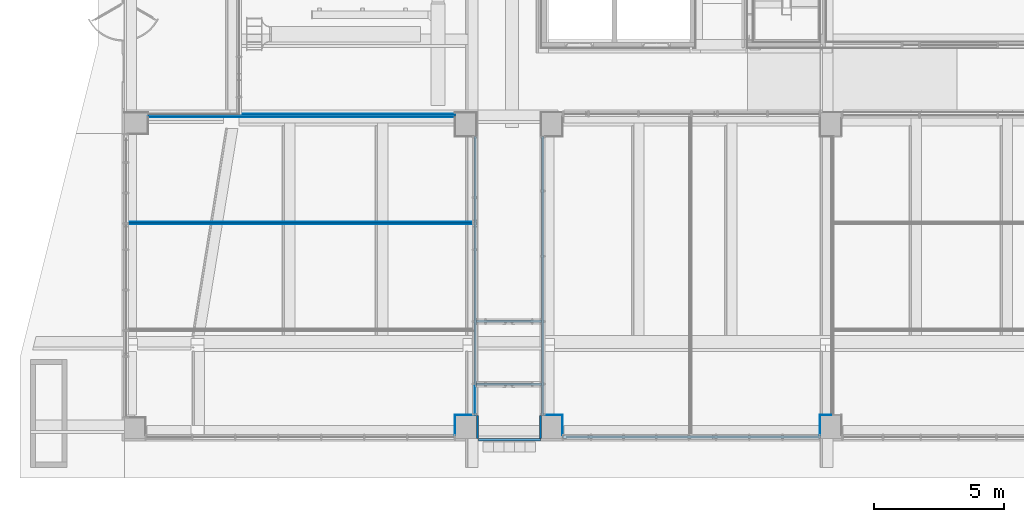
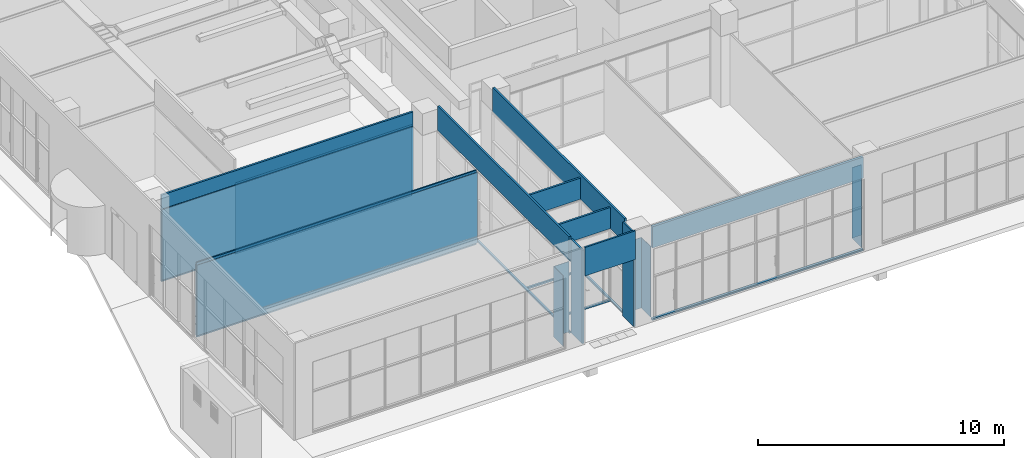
# One storey, part 34 of 100: 22 walls, 10 openings.
"""IFC2X3 building model written with IfcOpenShell, lengths in millimetres."""

from ifc_helpers import new_model, entity, si_unit, converted_unit, derived_unit, direction, frame, frame_2d, origin, place, context, subcontext, project, spatial, polyline, rectangle, extrude, clip, bounded_halfspace, material, layer, layer_set, layer_usage, type_object, element, save


model = new_model("IFC2X3")

# Units and contexts
model_context = context("Model", 3, precision=0.01, world=origin(), true_north=direction((6.123031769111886e-17, 1.0)))
body_context = subcontext(model_context, "Body", "Model", "MODEL_VIEW")
ifc_project = project(units=[si_unit("LENGTHUNIT", "METRE", prefix="MILLI"), si_unit("AREAUNIT", "SQUARE_METRE"), si_unit("VOLUMEUNIT", "CUBIC_METRE"), converted_unit("PLANEANGLEUNIT", "DEGREE", entity("IfcRatioMeasure", 0.017453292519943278), si_unit("PLANEANGLEUNIT", "RADIAN"), dimensions=[0, 0, 0, 0, 0, 0, 0]), si_unit("MASSUNIT", "GRAM", prefix="KILO"), derived_unit("MASSDENSITYUNIT", [(si_unit("MASSUNIT", "GRAM", prefix="KILO"), 1), (si_unit("LENGTHUNIT", "METRE"), -3)]), derived_unit("MOMENTOFINERTIAUNIT", [(si_unit("LENGTHUNIT", "METRE"), 4)]), si_unit("TIMEUNIT", "SECOND"), si_unit("FREQUENCYUNIT", "HERTZ"), si_unit("THERMODYNAMICTEMPERATUREUNIT", "DEGREE_CELSIUS"), derived_unit("THERMALTRANSMITTANCEUNIT", [(si_unit("MASSUNIT", "GRAM", prefix="KILO"), 1), (si_unit("THERMODYNAMICTEMPERATUREUNIT", "KELVIN"), -1), (si_unit("TIMEUNIT", "SECOND"), -3)]), derived_unit("VOLUMETRICFLOWRATEUNIT", [(si_unit("LENGTHUNIT", "METRE"), 3), (si_unit("TIMEUNIT", "SECOND"), -1)]), derived_unit("MASSFLOWRATEUNIT", [(si_unit("MASSUNIT", "GRAM", prefix="KILO"), 1), (si_unit("TIMEUNIT", "SECOND"), -1)]), derived_unit("ROTATIONALFREQUENCYUNIT", [(si_unit("TIMEUNIT", "SECOND"), -1)]), si_unit("ELECTRICCURRENTUNIT", "AMPERE"), si_unit("ELECTRICVOLTAGEUNIT", "VOLT"), si_unit("POWERUNIT", "WATT"), si_unit("FORCEUNIT", "NEWTON", prefix="KILO"), si_unit("ILLUMINANCEUNIT", "LUX"), si_unit("LUMINOUSFLUXUNIT", "LUMEN"), si_unit("LUMINOUSINTENSITYUNIT", "CANDELA"), derived_unit("USERDEFINED", [(si_unit("MASSUNIT", "GRAM", prefix="KILO"), -1), (si_unit("LENGTHUNIT", "METRE"), -2), (si_unit("TIMEUNIT", "SECOND"), 3), (si_unit("LUMINOUSFLUXUNIT", "LUMEN"), 1)]), derived_unit("SOUNDPOWERUNIT", [(si_unit("MASSUNIT", "GRAM", prefix="KILO"), 1), (si_unit("LENGTHUNIT", "METRE"), 2), (si_unit("TIMEUNIT", "SECOND"), -3)]), derived_unit("SOUNDPRESSUREUNIT", [(si_unit("MASSUNIT", "GRAM", prefix="KILO"), 1), (si_unit("LENGTHUNIT", "METRE"), -1), (si_unit("TIMEUNIT", "SECOND"), -2)]), derived_unit("LINEARVELOCITYUNIT", [(si_unit("LENGTHUNIT", "METRE"), 1), (si_unit("TIMEUNIT", "SECOND"), -1)]), si_unit("PRESSUREUNIT", "PASCAL"), derived_unit("USERDEFINED", [(si_unit("LENGTHUNIT", "METRE"), -2), (si_unit("MASSUNIT", "GRAM", prefix="KILO"), 1), (si_unit("TIMEUNIT", "SECOND"), -2)]), derived_unit("LINEARFORCEUNIT", [(si_unit("MASSUNIT", "GRAM", prefix="KILO"), 1), (si_unit("LENGTHUNIT", "METRE"), 1), (si_unit("TIMEUNIT", "SECOND"), -2), (si_unit("LENGTHUNIT", "METRE"), -1)]), derived_unit("PLANARFORCEUNIT", [(si_unit("MASSUNIT", "GRAM", prefix="KILO"), 1), (si_unit("LENGTHUNIT", "METRE"), 1), (si_unit("TIMEUNIT", "SECOND"), -2), (si_unit("LENGTHUNIT", "METRE"), -2)])], contexts=[model_context])

# Site, building, storey
site_placement = place(None, frame((-14167.972527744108, -657.2125860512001, 0.0)))
site = spatial("IfcSite", under=ifc_project, at=site_placement, Name="Default", CompositionType="ELEMENT")
building_placement = place(site_placement, origin())
building = spatial("IfcBuilding", under=site, at=building_placement, Name="Sample Building", CompositionType="ELEMENT")
storey_placement = place(building_placement, origin())
storey = spatial("IfcBuildingStorey", under=building, at=storey_placement, Name="지상 1층", CompositionType="ELEMENT", Elevation=0.0)

# Walls
ifc_material_1 = material(Name="KBIMS-화강석 잔다듬")
ifc_layer_1 = layer(ifc_material_1, 80.0)
ifc_layer_set_1 = layer_set([ifc_layer_1], Name="기본 벽:WA313-화강석잔다듬 벽 (30, 건식50) 80mm")
ifc_layer_usage_1 = layer_usage(ifc_layer_set_1, "AXIS2", "NEGATIVE", 40.0)
wall_type_1 = type_object("IfcWallType", Name="기본 벽:WA313-화강석잔다듬 벽 (30, 건식50) 80mm", PredefinedType="STANDARD", material=ifc_layer_set_1)
wall_1_placement = place(storey_placement, frame((27607.955141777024, 1457.2118860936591, 0.0), z_axis=(0.0, 0.0, 1.0), x_axis=(0.0, -1.0, 0.0)))
element("IfcWallStandardCase", 1, at=wall_1_placement, inside=storey, type_object=wall_type_1, material=ifc_layer_usage_1, Name="기본 벽:WA313-화강석잔다듬 벽 (30, 건식50) 80mm", ObjectType="기본 벽:WA313-화강석잔다듬 벽 (30, 건식50) 80mm", context=body_context, shape_type="Clipping", body=[
    clip(extrude(rectangle(XDim=899.9996909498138, YDim=79.99999999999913, at=frame_2d((449.9998454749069, 0.0), x_axis=(-1.0, 0.0))), origin(), (0.0, 0.0, 1.0), 4650.000000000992), bounded_halfspace(frame((0.0, -40.0, 4650.0), z_axis=(0.0, 0.0, -1.0), x_axis=(0.0, 1.0, 0.0)), True, frame((0.0, -40.0, 4650.0), z_axis=(0.0, 0.0, -1.0), x_axis=(0.0, 1.0, 0.0)), polyline([(0.0, 0.0), (24384.0, 0.0), (24384.0, 274319.9058015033), (0.0, 274319.9058015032), (0.0, 0.0)]))),
])
ifc_layer_usage_2 = layer_usage(ifc_layer_set_1, "AXIS2", "NEGATIVE", 40.0)
wall_2_placement = place(storey_placement, frame((14967.97245452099, 12957.268334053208, 80.0)))
element("IfcWallStandardCase", 2, at=wall_2_placement, inside=storey, type_object=wall_type_1, material=ifc_layer_usage_2, Name="기본 벽:WA313-화강석잔다듬 벽 (30, 건식50) 80mm", ObjectType="기본 벽:WA313-화강석잔다듬 벽 (30, 건식50) 80mm", context=body_context, shape_type="SweptSolid", body=[
    extrude(rectangle(XDim=11792.000036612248, YDim=79.99999999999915, at=frame_2d((5896.000018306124, -4.121147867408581e-13), x_axis=(-1.0, 0.0))), origin(), (0.0, 0.0, 1.0), 3520.000000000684),
])
ifc_layer_usage_3 = layer_usage(ifc_layer_set_1, "AXIS2", "POSITIVE", -40.0)
wall_3_placement = place(storey_placement, frame((27647.955141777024, 517.2126170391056, 3380.0)))
element("IfcWallStandardCase", 3, at=wall_3_placement, inside=storey, type_object=wall_type_1, material=ifc_layer_usage_3, Name="기본 벽:WA313-화강석잔다듬 벽 (30, 건식50) 80mm", ObjectType="기본 벽:WA313-화강석잔다듬 벽 (30, 건식50) 80mm", context=body_context, shape_type="SweptSolid", body=[
    extrude(rectangle(XDim=80.00000000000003, YDim=2380.0173219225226, at=frame_2d((1.2505552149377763e-12, 383.3362203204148), x_axis=(1.0, 0.0))), frame((1573.3448812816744, 0.0, 0.0), z_axis=(0.0, 0.0, 1.0), x_axis=(0.0, 1.0, 0.0)), (0.0, 0.0, 1.0), 1419.9999999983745),
])
ifc_layer_usage_4 = layer_usage(ifc_layer_set_1, "AXIS2", "POSITIVE", -40.0)
wall_4_placement = place(storey_placement, frame((30027.972463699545, 1457.2123079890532, 0.0), z_axis=(0.0, 0.0, 1.0), x_axis=(0.0, -1.0, 0.0)))
element("IfcWallStandardCase", 4, at=wall_4_placement, inside=storey, type_object=wall_type_1, material=ifc_layer_usage_4, Name="기본 벽:WA313-화강석잔다듬 벽 (30, 건식50) 80mm", ObjectType="기본 벽:WA313-화강석잔다듬 벽 (30, 건식50) 80mm", context=body_context, shape_type="Clipping", body=[
    clip(extrude(rectangle(XDim=899.999690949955, YDim=79.99999999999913, at=frame_2d((449.9998454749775, 0.0), x_axis=(-1.0, 0.0))), origin(), (0.0, 0.0, 1.0), 4650.000000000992), bounded_halfspace(frame((0.0, -40.0, 4650.0), z_axis=(0.0, 0.0, -1.0), x_axis=(0.0, 1.0, 0.0)), True, frame((0.0, -40.0, 4650.0), z_axis=(0.0, 0.0, -1.0), x_axis=(0.0, 1.0, 0.0)), polyline([(0.0, 0.0), (24384.0, 0.0), (24384.0, 274319.90580154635), (0.0, 274319.90580154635), (0.0, 0.0)]))),
])
ifc_material_2 = material(Name="KBIMS-DRY WALL")
ifc_layer_2 = layer(ifc_material_2, 12.5)
ifc_material_3 = material(Name="KBIMS-경량철골벽틀")
ifc_layer_3 = layer(ifc_material_3, 50.0)
ifc_layer_set_2 = layer_set([ifc_layer_2, ifc_layer_3], Name="기본 벽:WA731-DRY WALL(C50, GS12.5mm) (1겹한면, GW50mm) 62.5mm")
ifc_layer_usage_5 = layer_usage(ifc_layer_set_2, "AXIS2", "NEGATIVE", 31.250000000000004)
wall_type_2 = type_object("IfcWallType", Name="기본 벽:WA731-DRY WALL(C50, GS12.5mm) (1겹한면, GW50mm) 62.5mm", PredefinedType="STANDARD", material=ifc_layer_set_2)
wall_5_placement = place(storey_placement, frame((14229.839654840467, 8825.92762174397, 0.0)))
element("IfcWallStandardCase", 5, at=wall_5_placement, inside=storey, type_object=wall_type_2, material=ifc_layer_usage_5, Name="기본 벽:WA731-DRY WALL(C50, GS12.5mm) (1겹한면, GW50mm) 62.5mm", ObjectType="기본 벽:WA731-DRY WALL(C50, GS12.5mm) (1겹한면, GW50mm) 62.5mm", context=body_context, shape_type="SweptSolid", body=[
    extrude(rectangle(XDim=13138.14065970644, YDim=62.49999999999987, at=frame_2d((6569.07032985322, 8.881784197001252e-13), x_axis=(-1.0, 0.0))), origin(), (0.0, 0.0, 1.0), 3700.000000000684),
])

# Wall, opening
ifc_material_4 = material(Name="KBIMS-시멘트 벽돌")
ifc_layer_4 = layer(ifc_material_4, 90.0)
ifc_layer_set_3 = layer_set([ifc_layer_4], Name="기본 벽:WA211-시멘트벽돌(일반) 벽 (0.5B) 90mm")
ifc_layer_usage_6 = layer_usage(ifc_layer_set_3, "AXIS2", "NEGATIVE", 45.0)
wall_type_3 = type_object("IfcWallType", Name="기본 벽:WA211-시멘트벽돌(일반) 벽 (0.5B) 90mm", PredefinedType="STANDARD", material=ifc_layer_set_3)
wall_6_placement = place(storey_placement, frame((14967.97245452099, 12957.212586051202, 0.0)))
wall_6 = element("IfcWallStandardCase", 6, at=wall_6_placement, inside=storey, type_object=wall_type_3, material=ifc_layer_usage_6, Name="기본 벽:WA211-시멘트벽돌(일반) 벽 (0.5B) 90mm", ObjectType="기본 벽:WA211-시멘트벽돌(일반) 벽 (0.5B) 90mm", context=body_context, shape_type="SweptSolid", body=[
    extrude(rectangle(XDim=11799.982687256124, YDim=89.99999999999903, at=frame_2d((5899.991343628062, 1.0835776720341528e-12), x_axis=(-1.0, 0.0))), origin(), (0.0, 0.0, 1.0), 4300.000000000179),
])
opening_1_placement = place(wall_6_placement, origin())
element("IfcOpeningElement", 7, at=opening_1_placement, cuts=wall_6, Name="기본 벽:WA211-시멘트벽돌(일반) 벽 (0.5B) 90mm", ObjectType="Opening", context=body_context, shape_type="SweptSolid", body=[
    extrude(rectangle(XDim=3520.000000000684, YDim=11792.000036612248, at=frame_2d((-1.1368683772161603e-13, -1.3642420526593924e-12), x_axis=(1.0, 0.0))), frame((5896.000018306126, -197.39999999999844, 1840.0), z_axis=(0.0, 1.0, 0.0), x_axis=(0.0, 0.0, 1.0)), (0.0, 0.0, 1.0), 394.79999999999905),
])

# Wall, openings
ifc_layer_usage_7 = layer_usage(ifc_layer_set_3, "AXIS2", "NEGATIVE", 45.0)
wall_7_placement = place(storey_placement, frame((27522.9551417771, 1457.1944693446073, 0.0), z_axis=(0.0, 0.0, 1.0), x_axis=(0.0, 1.0, 0.0)))
wall_7 = element("IfcWallStandardCase", 8, at=wall_7_placement, inside=storey, type_object=wall_type_3, material=ifc_layer_usage_7, Name="기본 벽:WA211-시멘트벽돌(일반) 벽 (0.5B) 90mm", ObjectType="기본 벽:WA211-시멘트벽돌(일반) 벽 (0.5B) 90mm", context=body_context, shape_type="SweptSolid", body=[
    extrude(rectangle(XDim=10700.018147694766, YDim=90.0000000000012, at=frame_2d((5350.009073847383, -2.1458390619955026e-12), x_axis=(-1.0, 0.0))), origin(), (0.0, 0.0, 1.0), 4799.999999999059),
])
opening_2_placement = place(storey_placement, frame((27522.9551417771, 1457.1944693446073, 0.0), z_axis=(0.0, 0.0, 1.0), x_axis=(0.0, 1.0, 0.0)))
element("IfcOpeningElement", 9, at=opening_2_placement, cuts=wall_7, Name="기본 벽:WA211-시멘트벽돌(일반) 벽 (0.5B) 90mm:1", ObjectType="Opening", context=body_context, shape_type="SweptSolid", body=[
    extrude(rectangle(XDim=30.000000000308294, YDim=1142.983155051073, at=frame_2d((0.0, 0.0), x_axis=(0.0, 1.0))), frame((571.4915775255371, 9.97482723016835, 3615.0), z_axis=(0.0, -1.0, 0.0), x_axis=(-1.0, 0.0, 0.0)), (0.0, 0.0, 1.0), 18.000000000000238),
])
opening_3_placement = place(wall_7_placement, origin())
element("IfcOpeningElement", 10, at=opening_3_placement, cuts=wall_7, Name="기본 벽:WA211-시멘트벽돌(일반) 벽 (0.5B) 90mm", ObjectType="Opening", context=body_context, shape_type="SweptSolid", body=[
    extrude(rectangle(XDim=3520.000000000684, YDim=10700.0, at=frame_2d((-1.1368683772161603e-13, 9.094947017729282e-13), x_axis=(1.0, 0.0))), frame((5350.01814769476, -197.4000000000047, 1840.0), z_axis=(0.0, 1.0, 0.0), x_axis=(0.0, 0.0, 1.0)), (0.0, 0.0, 1.0), 394.8000000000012),
])

# Wall, opening
ifc_layer_usage_8 = layer_usage(ifc_layer_set_3, "AXIS2", "POSITIVE", -45.0)
wall_8_placement = place(storey_placement, frame((30112.97249113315, 1457.212307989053, 0.0), z_axis=(0.0, 0.0, 1.0), x_axis=(0.0, 1.0, 0.0)))
wall_8 = element("IfcWallStandardCase", 11, at=wall_8_placement, inside=storey, type_object=wall_type_3, material=ifc_layer_usage_8, Name="기본 벽:WA211-시멘트벽돌(일반) 벽 (0.5B) 90mm", ObjectType="기본 벽:WA211-시멘트벽돌(일반) 벽 (0.5B) 90mm", context=body_context, shape_type="SweptSolid", body=[
    extrude(rectangle(XDim=10700.00030905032, YDim=90.0000000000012, at=frame_2d((5350.00015452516, -2.7675639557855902e-12), x_axis=(-1.0, 0.0))), origin(), (0.0, 0.0, 1.0), 4799.99999999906),
])
opening_4_placement = place(wall_8_placement, origin())
element("IfcOpeningElement", 12, at=opening_4_placement, cuts=wall_8, Name="기본 벽:WA211-시멘트벽돌(일반) 벽 (0.5B) 90mm", ObjectType="Opening", context=body_context, shape_type="SweptSolid", body=[
    extrude(rectangle(XDim=3520.000000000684, YDim=10700.000309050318, at=frame_2d((0.0, 0.0), x_axis=(0.0, 1.0))), frame((5350.00015452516, -197.40000000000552, 1840.0), z_axis=(0.0, 1.0, 0.0), x_axis=(-1.0, 0.0, 0.0)), (0.0, 0.0, 1.0), 394.8000000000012),
])

ifc_layer_usage_9 = layer_usage(ifc_layer_set_3, "AXIS2", "NEGATIVE", 45.0)
wall_9_placement = place(storey_placement, frame((27567.955141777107, 5057.1776243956, 0.0)))
wall_9 = element("IfcWallStandardCase", 13, at=wall_9_placement, inside=storey, type_object=wall_type_3, material=ifc_layer_usage_9, Name="기본 벽:WA211-시멘트벽돌(일반) 벽 (0.5B) 90mm", ObjectType="기본 벽:WA211-시멘트벽돌(일반) 벽 (0.5B) 90mm", context=body_context, shape_type="Clipping", body=[
    clip(extrude(rectangle(XDim=2500.01734935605, YDim=90.0000000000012, at=frame_2d((1250.008674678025, -8.277822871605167e-13), x_axis=(-1.0, 0.0))), origin(), (0.0, 0.0, 1.0), 4650.000000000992), bounded_halfspace(frame((0.0, -45.0, 4650.0), z_axis=(0.0, 0.0, -1.0), x_axis=(1.0, 0.0, 0.0)), True, frame((0.0, -45.0, 4650.0), z_axis=(0.0, 0.0, -1.0), x_axis=(1.0, 0.0, 0.0)), polyline([(0.0, 0.0), (0.0, -27432.0), (762005.2880837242, -27432.0), (762005.2880837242, 2.4667713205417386e-09), (0.0, 0.0)]))),
])
opening_5_placement = place(wall_9_placement, origin())
element("IfcOpeningElement", 14, at=opening_5_placement, cuts=wall_9, Name="기본 벽:WA211-시멘트벽돌(일반) 벽 (0.5B) 90mm", ObjectType="Opening", context=body_context, shape_type="SweptSolid", body=[
    extrude(rectangle(XDim=3520.000000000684, YDim=2500.0173493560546, at=frame_2d((0.0, 0.0), x_axis=(0.0, 1.0))), frame((1250.0086746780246, -197.4000000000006, 1840.0), z_axis=(0.0, 1.0, 0.0), x_axis=(-1.0, 0.0, 0.0)), (0.0, 0.0, 1.0), 394.79999999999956),
])

ifc_layer_usage_10 = layer_usage(ifc_layer_set_3, "AXIS2", "NEGATIVE", 45.0)
wall_10_placement = place(storey_placement, frame((27567.955141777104, 2645.177624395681, 0.0)))
wall_10 = element("IfcWallStandardCase", 15, at=wall_10_placement, inside=storey, type_object=wall_type_3, material=ifc_layer_usage_10, Name="기본 벽:WA211-시멘트벽돌(일반) 벽 (0.5B) 90mm", ObjectType="기본 벽:WA211-시멘트벽돌(일반) 벽 (0.5B) 90mm", context=body_context, shape_type="Clipping", body=[
    clip(extrude(rectangle(XDim=2500.01734935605, YDim=90.00000000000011, at=frame_2d((1250.008674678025, -1.7763568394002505e-14), x_axis=(-1.0, 0.0))), origin(), (0.0, 0.0, 1.0), 4650.000000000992), bounded_halfspace(frame((0.0, -45.0, 4650.0), z_axis=(0.0, 0.0, -1.0), x_axis=(1.0, 0.0, 0.0)), True, frame((0.0, -45.0, 4650.0), z_axis=(0.0, 0.0, -1.0), x_axis=(1.0, 0.0, 0.0)), polyline([(0.0, 0.0), (0.0, -27432.0), (762005.2880837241, -27432.0), (762005.2880837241, 2.4667713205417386e-09), (0.0, 0.0)]))),
])
opening_6_placement = place(wall_10_placement, origin())
element("IfcOpeningElement", 16, at=opening_6_placement, cuts=wall_10, Name="기본 벽:WA211-시멘트벽돌(일반) 벽 (0.5B) 90mm", ObjectType="Opening", context=body_context, shape_type="SweptSolid", body=[
    extrude(rectangle(XDim=3520.000000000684, YDim=2545.017349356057, at=frame_2d((-2.1600499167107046e-12, 0.0), x_axis=(0.0, 1.0))), frame((1227.5086746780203, -197.4000000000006, 1840.0), z_axis=(0.0, 1.0, 0.0), x_axis=(-1.0, 0.0, 0.0)), (0.0, 0.0, 1.0), 394.8000000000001),
])

# Wall, openings
ifc_material_5 = material(Name="KBIMS-콘크리트")
ifc_layer_5 = layer(ifc_material_5, 125.00000000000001)
ifc_layer_set_4 = layer_set([ifc_layer_5], Name="기본 벽:WA111-철근콘크리트구조 벽 125mm_W3")
ifc_layer_usage_11 = layer_usage(ifc_layer_set_4, "AXIS2", "NEGATIVE", 62.50000000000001)
wall_type_4 = type_object("IfcWallType", Name="기본 벽:WA111-철근콘크리트구조 벽 125mm_W3", PredefinedType="STANDARD", material=ifc_layer_set_4)
wall_11_placement = place(storey_placement, frame((30867.972491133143, 619.7122951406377, 0.0)))
wall_11 = element("IfcWallStandardCase", 17, at=wall_11_placement, inside=storey, type_object=wall_type_4, material=ifc_layer_usage_11, Name="기본 벽:WA111-철근콘크리트구조 벽 125mm_W3", ObjectType="기본 벽:WA111-철근콘크리트구조 벽 125mm_W3", context=body_context, shape_type="Clipping", body=[
    clip(extrude(rectangle(XDim=9900.000000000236, YDim=125.00000000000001, at=frame_2d((4950.000000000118, 0.0), x_axis=(-1.0, 0.0))), origin(), (0.0, 0.0, 1.0), 4650.000000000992), bounded_halfspace(frame((0.0, -62.50000000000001, 4650.0), z_axis=(0.0, 0.0, -1.0), x_axis=(0.0, -1.0, 0.0)), True, frame((0.0, -62.50000000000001, 4650.0), z_axis=(0.0, 0.0, -1.0), x_axis=(0.0, -1.0, 0.0)), polyline([(0.0, 0.0), (-38100.0, 0.0), (-38100.0, -3017520.0), (1.7780678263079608e-08, -3017520.0), (0.0, 0.0)]))),
])
opening_7_placement = place(wall_11_placement, origin())
element("IfcOpeningElement", 18, at=opening_7_placement, cuts=wall_11, Name="기본 벽:WA111-철근콘크리트구조 벽 125mm_W3", ObjectType="Opening", context=body_context, shape_type="SweptSolid", body=[
    extrude(rectangle(XDim=3520.000000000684, YDim=9900.000000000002, at=frame_2d((-1.1368683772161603e-13, 0.0), x_axis=(1.0, 0.0))), frame((4950.0, -214.9, 1840.0), z_axis=(0.0, 1.0, 0.0), x_axis=(0.0, 0.0, 1.0)), (0.0, 0.0, 1.0), 429.8),
])
opening_8_placement = place(wall_11_placement, origin())
element("IfcOpeningElement", 19, at=opening_8_placement, cuts=wall_11, Name="기본 벽:WA111-철근콘크리트구조 벽 125mm_W3", ObjectType="Opening", context=body_context, shape_type="SweptSolid", body=[
    extrude(rectangle(XDim=3520.000000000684, YDim=11900.000036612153, at=frame_2d((-1.1368683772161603e-13, -9.094947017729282e-13), x_axis=(1.0, 0.0))), frame((-10050.0, -214.9000000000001, 1840.0), z_axis=(0.0, 1.0, 0.0), x_axis=(0.0, 0.0, 1.0)), (0.0, 0.0, 1.0), 429.8),
])
opening_9_placement = place(wall_11_placement, origin())
element("IfcOpeningElement", 20, at=opening_9_placement, cuts=wall_11, Name="기본 벽:WA111-철근콘크리트구조 벽 125mm_W3", ObjectType="Opening", context=body_context, shape_type="SweptSolid", body=[
    extrude(rectangle(XDim=3520.000000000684, YDim=9081.999994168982, at=frame_2d((-1.1368683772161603e-13, 4.092726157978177e-12), x_axis=(1.0, 0.0))), frame((15259.0, -214.9, 1840.0), z_axis=(0.0, 1.0, 0.0), x_axis=(0.0, 0.0, 1.0)), (0.0, 0.0, 1.0), 429.8),
])

# Walls
ifc_material_6 = material(Name="WA611-수성페인트 (내부) 벽 (3회)")
ifc_layer_6 = layer(ifc_material_6, 1.0)
ifc_material_7 = material(Name="WA551-시멘트모르타르 (내부) 벽 18mm")
ifc_layer_7 = layer(ifc_material_7, 16.0)
ifc_material_8 = material(Name="WA555-콘크리트면정리 벽 (내부)")
ifc_layer_8 = layer(ifc_material_8, 1.0)
ifc_layer_set_5 = layer_set([ifc_layer_6, ifc_layer_7, ifc_layer_8], Name="기본 벽:A1-32-06A-콘크리트면정리, 시멘트모르타르(미장용), 수성페인트(내부) (18mm)")
ifc_layer_usage_12 = layer_usage(ifc_layer_set_5, "AXIS2", "POSITIVE", -9.000000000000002)
wall_type_5 = type_object("IfcWallType", Name="기본 벽:A1-32-06A-콘크리트면정리, 시멘트모르타르(미장용), 수성페인트(내부) (18mm)", PredefinedType="STANDARD", material=ifc_layer_set_5)
wall_12_placement = place(storey_placement, frame((26767.955141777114, 13011.212586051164, 80.0), z_axis=(0.0, 0.0, 1.0), x_axis=(-1.0, 0.0, 0.0)))
element("IfcWallStandardCase", 21, at=wall_12_placement, inside=storey, type_object=wall_type_5, material=ifc_layer_usage_12, Name="기본 벽:A1-32-06A-콘크리트면정리, 시멘트모르타르(미장용), 수성페인트(내부) (18mm)", ObjectType="기본 벽:A1-32-06A-콘크리트면정리, 시멘트모르타르(미장용), 수성페인트(내부) (18mm)", context=body_context, shape_type="SweptSolid", body=[
    extrude(rectangle(XDim=8299.99134362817, YDim=18.00000000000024, at=frame_2d((4149.995671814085, -5.293543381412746e-13), x_axis=(-1.0, 0.0))), origin(), (0.0, 0.0, 1.0), 3550.0000000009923),
])
ifc_layer_usage_13 = layer_usage(ifc_layer_set_5, "AXIS2", "POSITIVE", -9.000000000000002)
wall_13_placement = place(storey_placement, frame((14229.839654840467, 8786.677621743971, 80.0)))
element("IfcWallStandardCase", 22, at=wall_13_placement, inside=storey, type_object=wall_type_5, material=ifc_layer_usage_13, Name="기본 벽:A1-32-06A-콘크리트면정리, 시멘트모르타르(미장용), 수성페인트(내부) (18mm)", ObjectType="기본 벽:A1-32-06A-콘크리트면정리, 시멘트모르타르(미장용), 수성페인트(내부) (18mm)", context=body_context, shape_type="SweptSolid", body=[
    extrude(rectangle(XDim=13175.14065970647, YDim=18.000000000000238, at=frame_2d((6587.570329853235, -1.8030021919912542e-13), x_axis=(-1.0, 0.0))), origin(), (0.0, 0.0, 1.0), 3500.0000000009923),
])
ifc_layer_usage_14 = layer_usage(ifc_layer_set_5, "AXIS2", "POSITIVE", -9.000000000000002)
wall_14_placement = place(storey_placement, frame((27477.9551417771, 1466.1944693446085, 80.0), z_axis=(0.0, 0.0, 1.0), x_axis=(-1.0, 0.0, 0.0)))
element("IfcWallStandardCase", 23, at=wall_14_placement, inside=storey, type_object=wall_type_5, material=ifc_layer_usage_14, Name="기본 벽:A1-32-06A-콘크리트면정리, 시멘트모르타르(미장용), 수성페인트(내부) (18mm)", ObjectType="기본 벽:A1-32-06A-콘크리트면정리, 시멘트모르타르(미장용), 수성페인트(내부) (18mm)", context=body_context, shape_type="SweptSolid", body=[
    extrude(rectangle(XDim=727.9826506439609, YDim=17.999999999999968, at=frame_2d((363.99132532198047, 1.7674750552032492e-13), x_axis=(-1.0, 0.0))), origin(), (0.0, 0.0, 1.0), 3500.0000000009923),
])
ifc_layer_usage_15 = layer_usage(ifc_layer_set_5, "AXIS2", "POSITIVE", -9.000000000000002)
wall_15_placement = place(storey_placement, frame((26758.972491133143, 1457.1944693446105, 80.0), z_axis=(0.0, 0.0, 1.0), x_axis=(0.0, -1.0, 0.0)))
element("IfcWallStandardCase", 24, at=wall_15_placement, inside=storey, type_object=wall_type_5, material=ifc_layer_usage_15, Name="기본 벽:A1-32-06A-콘크리트면정리, 시멘트모르타르(미장용), 수성페인트(내부) (18mm)", ObjectType="기본 벽:A1-32-06A-콘크리트면정리, 시멘트모르타르(미장용), 수성페인트(내부) (18mm)", context=body_context, shape_type="SweptSolid", body=[
    extrude(rectangle(XDim=774.9821742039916, YDim=18.00000000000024, at=frame_2d((387.4910871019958, -2.1662671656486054e-12), x_axis=(-1.0, 0.0))), origin(), (0.0, 0.0, 1.0), 3500.0000000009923),
])
ifc_layer_usage_16 = layer_usage(ifc_layer_set_5, "AXIS2", "POSITIVE", -9.000000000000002)
wall_16_placement = place(storey_placement, frame((30876.972463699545, 700.1948783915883, 80.0), z_axis=(0.0, 0.0, 1.0), x_axis=(0.0, 1.0, 0.0)))
element("IfcWallStandardCase", 25, at=wall_16_placement, inside=storey, type_object=wall_type_5, material=ifc_layer_usage_16, Name="기본 벽:A1-32-06A-콘크리트면정리, 시멘트모르타르(미장용), 수성페인트(내부) (18mm)", ObjectType="기본 벽:A1-32-06A-콘크리트면정리, 시멘트모르타르(미장용), 수성페인트(내부) (18mm)", context=body_context, shape_type="SweptSolid", body=[
    extrude(rectangle(XDim=775.0174295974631, YDim=18.00000000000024, at=frame_2d((387.50871479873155, -2.1662671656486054e-12), x_axis=(-1.0, 0.0))), origin(), (0.0, 0.0, 1.0), 3500.0000000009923),
])
ifc_layer_usage_17 = layer_usage(ifc_layer_set_5, "AXIS2", "POSITIVE", -9.000000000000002)
wall_17_placement = place(storey_placement, frame((30867.972463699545, 1466.2123079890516, 80.0), z_axis=(0.0, 0.0, 1.0), x_axis=(-1.0, 0.0, 0.0)))
element("IfcWallStandardCase", 26, at=wall_17_placement, inside=storey, type_object=wall_type_5, material=ifc_layer_usage_17, Name="기본 벽:A1-32-06A-콘크리트면정리, 시멘트모르타르(미장용), 수성페인트(내부) (18mm)", ObjectType="기본 벽:A1-32-06A-콘크리트면정리, 시멘트모르타르(미장용), 수성페인트(내부) (18mm)", context=body_context, shape_type="SweptSolid", body=[
    extrude(rectangle(XDim=654.9999725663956, YDim=17.999999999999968, at=frame_2d((327.4999862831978, 1.865174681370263e-13), x_axis=(-1.0, 0.0))), origin(), (0.0, 0.0, 1.0), 3500.0000000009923),
])
ifc_layer_usage_18 = layer_usage(ifc_layer_set_5, "AXIS2", "POSITIVE", -9.000000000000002)
wall_18_placement = place(storey_placement, frame((41187.47249113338, 1466.2123079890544, 80.0), z_axis=(0.0, 0.0, 1.0), x_axis=(-1.0, 0.0, 0.0)))
element("IfcWallStandardCase", 27, at=wall_18_placement, inside=storey, type_object=wall_type_5, material=ifc_layer_usage_18, Name="기본 벽:A1-32-06A-콘크리트면정리, 시멘트모르타르(미장용), 수성페인트(내부) (18mm)", ObjectType="기본 벽:A1-32-06A-콘크리트면정리, 시멘트모르타르(미장용), 수성페인트(내부) (18mm)", context=body_context, shape_type="SweptSolid", body=[
    extrude(rectangle(XDim=437.4999999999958, YDim=17.999999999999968, at=frame_2d((218.7499999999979, 3.694822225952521e-13), x_axis=(-1.0, 0.0))), origin(), (0.0, 0.0, 1.0), 3500.0000000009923),
])
ifc_layer_usage_19 = layer_usage(ifc_layer_set_5, "AXIS2", "POSITIVE", -9.000000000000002)
wall_19_placement = place(storey_placement, frame((40758.97249113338, 1457.2123079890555, 80.0), z_axis=(0.0, 0.0, 1.0), x_axis=(0.0, -1.0, 0.0)))
element("IfcWallStandardCase", 28, at=wall_19_placement, inside=storey, type_object=wall_type_5, material=ifc_layer_usage_19, Name="기본 벽:A1-32-06A-콘크리트면정리, 시멘트모르타르(미장용), 수성페인트(내부) (18mm)", ObjectType="기본 벽:A1-32-06A-콘크리트면정리, 시멘트모르타르(미장용), 수성페인트(내부) (18mm)", context=body_context, shape_type="SweptSolid", body=[
    extrude(rectangle(XDim=775.0000128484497, YDim=17.999999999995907, at=frame_2d((387.50000642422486, 0.0), x_axis=(-1.0, 0.0))), origin(), (0.0, 0.0, 1.0), 3500.0000000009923),
])
ifc_layer_usage_20 = layer_usage(ifc_layer_set_5, "AXIS2", "POSITIVE", -9.000000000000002)
wall_20_placement = place(storey_placement, frame((14967.972454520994, 12903.212586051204, 80.0)))
element("IfcWallStandardCase", 29, at=wall_20_placement, inside=storey, type_object=wall_type_5, material=ifc_layer_usage_20, Name="기본 벽:A1-32-06A-콘크리트면정리, 시멘트모르타르(미장용), 수성페인트(내부) (18mm)", ObjectType="기본 벽:A1-32-06A-콘크리트면정리, 시멘트모르타르(미장용), 수성페인트(내부) (18mm)", context=body_context, shape_type="SweptSolid", body=[
    extrude(rectangle(XDim=11801.000036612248, YDim=18.00000000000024, at=frame_2d((5900.500018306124, -2.5490720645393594e-13), x_axis=(-1.0, 0.0))), origin(), (0.0, 0.0, 1.0), 3500.0000000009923),
])
ifc_layer_usage_21 = layer_usage(ifc_layer_set_5, "AXIS2", "POSITIVE", -9.000000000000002)
wall_21_placement = place(storey_placement, frame((27367.980314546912, 8866.177621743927, 80.0), z_axis=(0.0, 0.0, 1.0), x_axis=(-1.0, 0.0, 0.0)))
element("IfcWallStandardCase", 30, at=wall_21_placement, inside=storey, type_object=wall_type_5, material=ifc_layer_usage_21, Name="기본 벽:A1-32-06A-콘크리트면정리, 시멘트모르타르(미장용), 수성페인트(내부) (18mm)", ObjectType="기본 벽:A1-32-06A-콘크리트면정리, 시멘트모르타르(미장용), 수성페인트(내부) (18mm)", context=body_context, shape_type="SweptSolid", body=[
    extrude(rectangle(XDim=13138.140659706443, YDim=18.00000000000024, at=frame_2d((6569.070329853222, 6.128431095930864e-14), x_axis=(-1.0, 0.0))), origin(), (0.0, 0.0, 1.0), 3500.0000000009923),
])

# Wall, opening
ifc_layer_usage_22 = layer_usage(ifc_layer_set_5, "AXIS2", "NEGATIVE", 9.000000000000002)
wall_22_placement = place(storey_placement, frame((27521.980314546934, 2600.177624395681, 3600.0), z_axis=(0.0, 0.0, 1.0), x_axis=(0.0, -1.0, 0.0)))
wall_22 = element("IfcWallStandardCase", 31, at=wall_22_placement, inside=storey, type_object=wall_type_5, material=ifc_layer_usage_22, Name="기본 벽:A1-32-06A-콘크리트면정리, 시멘트모르타르(미장용), 수성페인트(내부) (18mm)", ObjectType="기본 벽:A1-32-06A-콘크리트면정리, 시멘트모르타르(미장용), 수성페인트(내부) (18mm)", context=body_context, shape_type="SweptSolid", body=[
    extrude(rectangle(XDim=1142.9654292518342, YDim=18.00000000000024, at=frame_2d((571.4827146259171, -2.1662671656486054e-12), x_axis=(1.0, 0.0))), origin(), (0.0, 0.0, 1.0), 30.000000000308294),
])
opening_10_placement = place(wall_22_placement, origin())
element("IfcOpeningElement", 32, at=opening_10_placement, cuts=wall_22, Name="기본 벽:A1-32-06A-콘크리트면정리, 시멘트모르타르(미장용), 수성페인트(내부) (18mm)", ObjectType="Opening", context=body_context, shape_type="SweptSolid", body=[
    extrude(rectangle(XDim=3520.000000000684, YDim=10700.0, at=frame_2d((9.094947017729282e-13, 0.0), x_axis=(0.0, 1.0))), frame((-4207.034992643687, -161.40000000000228, -1760.0), z_axis=(0.0, 1.0, 0.0), x_axis=(-1.0, 0.0, 0.0)), (0.0, 0.0, 1.0), 322.80000000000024),
])

save(model, "model.ifc")
